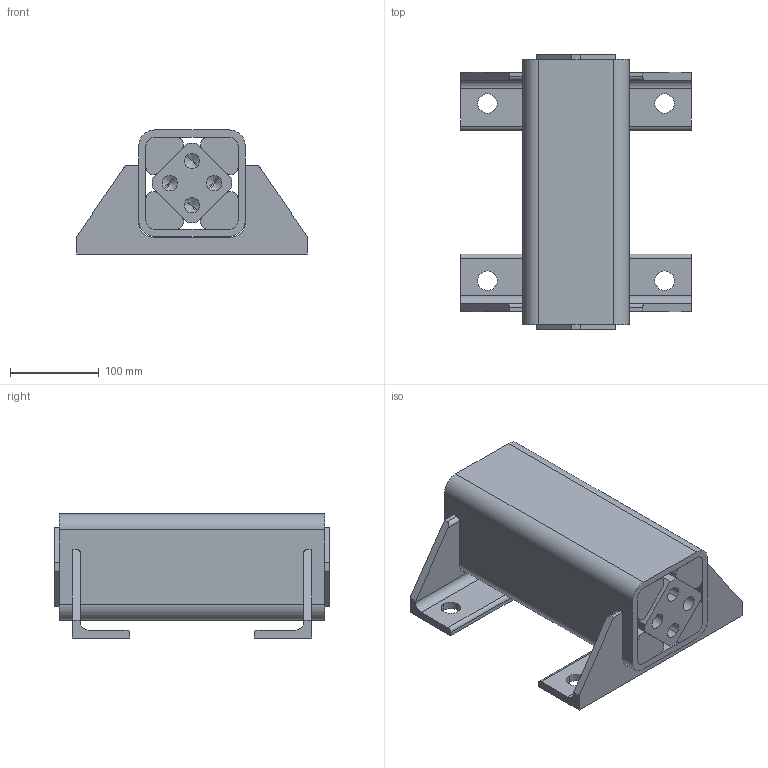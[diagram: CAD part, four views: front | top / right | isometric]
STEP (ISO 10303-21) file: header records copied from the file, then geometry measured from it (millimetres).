
FILE_DESCRIPTION((''),'2;1');
FILE_NAME('\\rostaofc\data\uw\save\daten_f\Normprogramm 3D\Gummifederelemente\DW-A70x300_01101005.stp','2004-09-28T07:54:41',('uw'),(''),'Autodesk Inventor 8','Autodesk Inventor 8','');
FILE_SCHEMA(('AUTOMOTIVE_DESIGN { 1 0 10303 214 1 1 1 1 }'));
Length unit declared in the file: millimetre
Products named in the file (5): ROSTA-Gummifederelemente DW-A 70x300; 2_4_4812-003; Innenvierkant zu Typ DW-A70x300; Support zu Typ DW-A70; 2_4_4812-004
Assembly tree (8 placements, depth 2):
  ROSTA-Gummifederelemente DW-A 70x300
    2_4_4812-003
    Innenvierkant zu Typ DW-A70x300
    Support zu Typ DW-A70  x2
    2_4_4812-004  x4
Bounding box: 260 x 310 x 140 mm (x, y, z)
Volume: 4445061.6 mm3; surface area: 667248.5 mm2
Topology: 8 solids, 8 shells, 140 faces, 356 edges, 224 vertices
Faces by surface type: plane 64, cylinder 44, bspline 24, cone 8
Entity records: 3116 total; most frequent: CARTESIAN_POINT 809, DIRECTION 472, ORIENTED_EDGE 440, EDGE_CURVE 220, AXIS2_PLACEMENT_3D 167, VERTEX_POINT 144, VECTOR 138, LINE 138
